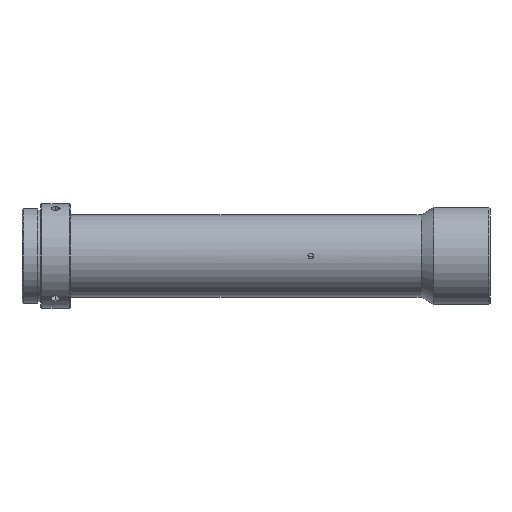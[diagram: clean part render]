
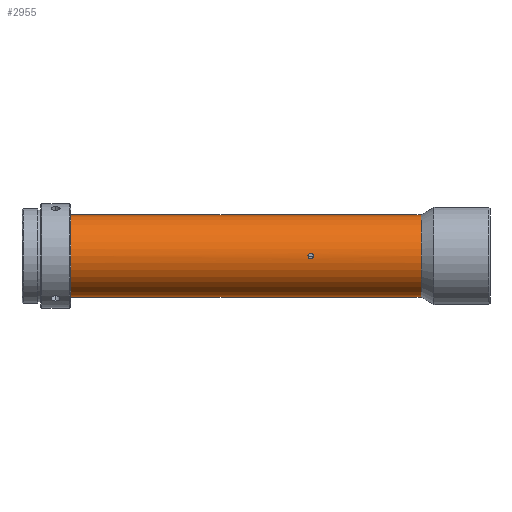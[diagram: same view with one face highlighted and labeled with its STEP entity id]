
A CAD part, front view. The second image highlights one B-rep face of the part: STEP entity #2955.
In plain terms, the highlighted cylindrical face has radius 11 mm (diameter 22 mm), a partial arc.
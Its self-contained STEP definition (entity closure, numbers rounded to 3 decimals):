
#25 = LINE ( 'NONE', #3961, #2455 ) ;
#61 = CARTESIAN_POINT ( 'NONE',  ( -17.196, -10.974, -0.75 ) ) ;
#75 = VERTEX_POINT ( 'NONE', #1292 ) ;
#179 = CARTESIAN_POINT ( 'NONE',  ( 12.536, 0., 0. ) ) ;
#190 = CARTESIAN_POINT ( 'NONE',  ( -16.902, -10.974, -0.75 ) ) ;
#391 = CARTESIAN_POINT ( 'NONE',  ( -81.65, 0., -11. ) ) ;
#402 = CARTESIAN_POINT ( 'NONE',  ( 12.536, 0., 11. ) ) ;
#407 = CARTESIAN_POINT ( 'NONE',  ( -17.378, -10.981, 0.655 ) ) ;
#422 = EDGE_CURVE ( 'NONE', #922, #1950, #3329, .T. ) ;
#441 = CARTESIAN_POINT ( 'NONE',  ( -19., 0., -11. ) ) ;
#474 = DIRECTION ( 'NONE',  ( -1., 0., 0. ) ) ;
#543 = CARTESIAN_POINT ( 'NONE',  ( -16.401, -10.991, 0.462 ) ) ;
#555 = CARTESIAN_POINT ( 'NONE',  ( -16.804, -10.976, -0.731 ) ) ;
#572 = VERTEX_POINT ( 'NONE', #2207 ) ;
#707 = CARTESIAN_POINT ( 'NONE',  ( -17.75, -11., -0.1 ) ) ;
#730 = ORIENTED_EDGE ( 'NONE', *, *, #3542, .F. ) ;
#734 = CARTESIAN_POINT ( 'NONE',  ( -81.65, 0., 11. ) ) ;
#738 = ORIENTED_EDGE ( 'NONE', *, *, #1953, .F. ) ;
#748 = CARTESIAN_POINT ( 'NONE',  ( -17.655, -10.994, -0.378 ) ) ;
#797 = DIRECTION ( 'NONE',  ( 0., 0., -1. ) ) ;
#803 = CARTESIAN_POINT ( 'NONE',  ( -34.557, 0., 11. ) ) ;
#813 = CARTESIAN_POINT ( 'NONE',  ( -81.65, 0., 0. ) ) ;
#829 = DIRECTION ( 'NONE',  ( 1., 0., 0. ) ) ;
#834 = CARTESIAN_POINT ( 'NONE',  ( -17., -10.974, -0.75 ) ) ;
#917 = CARTESIAN_POINT ( 'NONE',  ( -16.33, -10.994, -0.39 ) ) ;
#919 = ORIENTED_EDGE ( 'NONE', *, *, #1815, .F. ) ;
#922 = VERTEX_POINT ( 'NONE', #2103 ) ;
#940 = EDGE_CURVE ( 'NONE', #3348, #2479, #4039, .T. ) ;
#1056 = VERTEX_POINT ( 'NONE', #3509 ) ;
#1098 = ORIENTED_EDGE ( 'NONE', *, *, #3968, .F. ) ;
#1292 = CARTESIAN_POINT ( 'NONE',  ( 12.536, 0., 11. ) ) ;
#1373 = FACE_BOUND ( 'NONE', #2555, .T. ) ;
#1384 = CARTESIAN_POINT ( 'NONE',  ( -17.67, -10.994, 0.39 ) ) ;
#1385 = AXIS2_PLACEMENT_3D ( 'NONE', #2305, #3747, #4068 ) ;
#1411 = CARTESIAN_POINT ( 'NONE',  ( -17.75, -11., 0.198 ) ) ;
#1495 = DIRECTION ( 'NONE',  ( -1., 0., 0. ) ) ;
#1543 = EDGE_LOOP ( 'NONE', ( #1605, #1900, #2595, #1098, #4196, #730, #919, #2011 ) ) ;
#1564 = CARTESIAN_POINT ( 'NONE',  ( -16.54, -10.984, -0.6 ) ) ;
#1605 = ORIENTED_EDGE ( 'NONE', *, *, #1790, .F. ) ;
#1655 = CARTESIAN_POINT ( 'NONE',  ( -17., -10.974, -0.75 ) ) ;
#1706 = CARTESIAN_POINT ( 'NONE',  ( -17., -10.974, -0.75 ) ) ;
#1737 = CARTESIAN_POINT ( 'NONE',  ( -17.196, -10.976, 0.731 ) ) ;
#1744 = DIRECTION ( 'NONE',  ( -1., 0., 0. ) ) ;
#1749 = CARTESIAN_POINT ( 'NONE',  ( -17.392, -10.981, -0.669 ) ) ;
#1750 = AXIS2_PLACEMENT_3D ( 'NONE', #813, #1495, #3144 ) ;
#1790 = EDGE_CURVE ( 'NONE', #1905, #3348, #2026, .T. ) ;
#1815 = EDGE_CURVE ( 'NONE', #2479, #2381, #4032, .T. ) ;
#1896 = CARTESIAN_POINT ( 'NONE',  ( -16.345, -10.994, 0.378 ) ) ;
#1899 = VECTOR ( 'NONE', #3377, 1000. ) ;
#1900 = ORIENTED_EDGE ( 'NONE', *, *, #3046, .T. ) ;
#1905 = VERTEX_POINT ( 'NONE', #3291 ) ;
#1950 = VERTEX_POINT ( 'NONE', #734 ) ;
#1953 = EDGE_CURVE ( 'NONE', #1056, #2857, #2748, .T. ) ;
#1979 = DIRECTION ( 'NONE',  ( -1., 0., 0. ) ) ;
#1993 = VECTOR ( 'NONE', #1744, 1000. ) ;
#2011 = ORIENTED_EDGE ( 'NONE', *, *, #940, .F. ) ;
#2026 = LINE ( 'NONE', #4031, #2134 ) ;
#2103 = CARTESIAN_POINT ( 'NONE',  ( -19., 0., 11. ) ) ;
#2134 = VECTOR ( 'NONE', #2678, 1000. ) ;
#2207 = CARTESIAN_POINT ( 'NONE',  ( 3., 0., 11. ) ) ;
#2305 = CARTESIAN_POINT ( 'NONE',  ( 12.536, 0., 0. ) ) ;
#2381 = VERTEX_POINT ( 'NONE', #391 ) ;
#2455 = VECTOR ( 'NONE', #1979, 1000. ) ;
#2479 = VERTEX_POINT ( 'NONE', #441 ) ;
#2499 = LINE ( 'NONE', #803, #2610 ) ;
#2555 = EDGE_LOOP ( 'NONE', ( #738, #3290 ) ) ;
#2580 = CARTESIAN_POINT ( 'NONE',  ( -16.608, -10.981, 0.669 ) ) ;
#2595 = ORIENTED_EDGE ( 'NONE', *, *, #3322, .T. ) ;
#2610 = VECTOR ( 'NONE', #829, 1000. ) ;
#2678 = DIRECTION ( 'NONE',  ( -1., 0., 0. ) ) ;
#2748 = B_SPLINE_CURVE_WITH_KNOTS ( 'NONE', 3,
 ( #4083, #3787, #1737, #407, #3398, #1384, #1411, #707, #3057, #748, #3748, #1749, #61, #1706 ),
 .UNSPECIFIED., .F., .F.,
 ( 4, 2, 2, 2, 2, 2, 4 ),
 ( 0.004, 0.004, 0.004, 0.005, 0.005, 0.005, 0.006 ),
 .UNSPECIFIED. ) ;
#2857 = VERTEX_POINT ( 'NONE', #1655 ) ;
#2888 = CARTESIAN_POINT ( 'NONE',  ( -16.27, -10.999, 0.197 ) ) ;
#2955 = ADVANCED_FACE ( 'NONE', ( #3001, #1373 ), #4012, .T. ) ;
#3001 = FACE_OUTER_BOUND ( 'NONE', #1543, .T. ) ;
#3012 = CARTESIAN_POINT ( 'NONE',  ( 3., 0., -11. ) ) ;
#3046 = EDGE_CURVE ( 'NONE', #1905, #75, #3384, .T. ) ;
#3057 = CARTESIAN_POINT ( 'NONE',  ( -17.73, -10.999, -0.197 ) ) ;
#3144 = DIRECTION ( 'NONE',  ( 0., 0., 1. ) ) ;
#3173 = EDGE_CURVE ( 'NONE', #2857, #1056, #3363, .T. ) ;
#3290 = ORIENTED_EDGE ( 'NONE', *, *, #3173, .F. ) ;
#3291 = CARTESIAN_POINT ( 'NONE',  ( 12.536, 0., -11. ) ) ;
#3322 = EDGE_CURVE ( 'NONE', #75, #572, #25, .T. ) ;
#3329 = LINE ( 'NONE', #402, #1993 ) ;
#3348 = VERTEX_POINT ( 'NONE', #3012 ) ;
#3351 = CARTESIAN_POINT ( 'NONE',  ( 12.536, 0., -11. ) ) ;
#3363 = B_SPLINE_CURVE_WITH_KNOTS ( 'NONE', 3,
 ( #834, #190, #555, #3912, #1564, #917, #4231, #3950, #2888, #1896, #543, #2580, #3581, #4292 ),
 .UNSPECIFIED., .F., .F.,
 ( 4, 2, 2, 2, 2, 2, 4 ),
 ( 0.001, 0.001, 0.002, 0.002, 0.003, 0.003, 0.004 ),
 .UNSPECIFIED. ) ;
#3377 = DIRECTION ( 'NONE',  ( -1., 0., 0. ) ) ;
#3384 = CIRCLE ( 'NONE', #3751, 11. ) ;
#3398 = CARTESIAN_POINT ( 'NONE',  ( -17.46, -10.984, 0.6 ) ) ;
#3430 = CIRCLE ( 'NONE', #1750, 11. ) ;
#3509 = CARTESIAN_POINT ( 'NONE',  ( -17., -10.974, 0.75 ) ) ;
#3529 = CARTESIAN_POINT ( 'NONE',  ( -34.557, 0., -11. ) ) ;
#3542 = EDGE_CURVE ( 'NONE', #2381, #1950, #3430, .T. ) ;
#3581 = CARTESIAN_POINT ( 'NONE',  ( -16.804, -10.974, 0.75 ) ) ;
#3730 = VECTOR ( 'NONE', #4203, 1000. ) ;
#3747 = DIRECTION ( 'NONE',  ( -1., 0., 0. ) ) ;
#3748 = CARTESIAN_POINT ( 'NONE',  ( -17.599, -10.991, -0.462 ) ) ;
#3751 = AXIS2_PLACEMENT_3D ( 'NONE', #179, #474, #797 ) ;
#3787 = CARTESIAN_POINT ( 'NONE',  ( -17.098, -10.974, 0.75 ) ) ;
#3912 = CARTESIAN_POINT ( 'NONE',  ( -16.622, -10.981, -0.655 ) ) ;
#3950 = CARTESIAN_POINT ( 'NONE',  ( -16.25, -11., 0.1 ) ) ;
#3961 = CARTESIAN_POINT ( 'NONE',  ( 12.536, 0., 11. ) ) ;
#3968 = EDGE_CURVE ( 'NONE', #922, #572, #2499, .T. ) ;
#4012 = CYLINDRICAL_SURFACE ( 'NONE', #1385, 11. ) ;
#4031 = CARTESIAN_POINT ( 'NONE',  ( 12.536, 0., -11. ) ) ;
#4032 = LINE ( 'NONE', #3351, #1899 ) ;
#4039 = LINE ( 'NONE', #3529, #3730 ) ;
#4068 = DIRECTION ( 'NONE',  ( 0., 0., 1. ) ) ;
#4083 = CARTESIAN_POINT ( 'NONE',  ( -17., -10.974, 0.75 ) ) ;
#4196 = ORIENTED_EDGE ( 'NONE', *, *, #422, .T. ) ;
#4203 = DIRECTION ( 'NONE',  ( -1., 0., 0. ) ) ;
#4231 = CARTESIAN_POINT ( 'NONE',  ( -16.25, -11., -0.198 ) ) ;
#4292 = CARTESIAN_POINT ( 'NONE',  ( -17., -10.974, 0.75 ) ) ;
